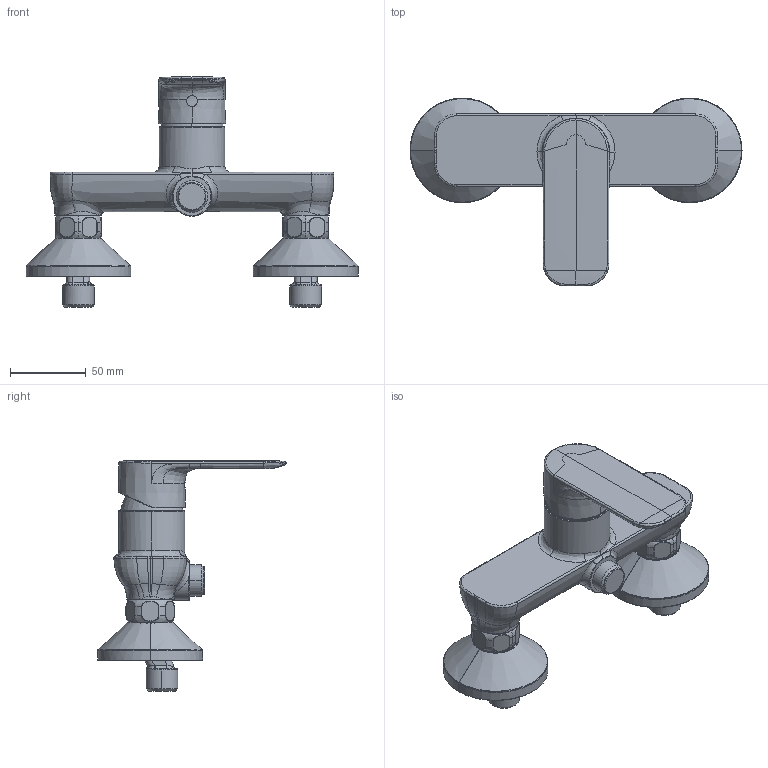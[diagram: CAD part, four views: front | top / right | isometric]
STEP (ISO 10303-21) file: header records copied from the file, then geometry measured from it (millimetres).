
FILE_DESCRIPTION (( 'STEP AP203' ), '1' );
FILE_NAME ('1660NU(2025).STEP', '2024-12-03T08:45:00', ( '' ), ( '' ), 'SwSTEP 2.0', 'SolidWorks 2024', '' );
FILE_SCHEMA (( 'CONFIG_CONTROL_DESIGN' ));
Length unit declared in the file: millimetre
Products named in the file (1): 1660NU(2025)
Bounding box: 219 x 124.08 x 151.97 mm (x, y, z)
Volume: 368660.3 mm3; surface area: 73311.7 mm2
Topology: 1 solids, 1 shells, 467 faces, 1142 edges, 686 vertices
Faces by surface type: bspline 301, cylinder 99, plane 49, cone 16, torus 2
Entity records: 38375 total; most frequent: CARTESIAN_POINT 29747, ORIENTED_EDGE 2278, DIRECTION 1170, EDGE_CURVE 1139, VERTEX_POINT 686, AXIS2_PLACEMENT_3D 509, B_SPLINE_CURVE_WITH_KNOTS 481, EDGE_LOOP 479
